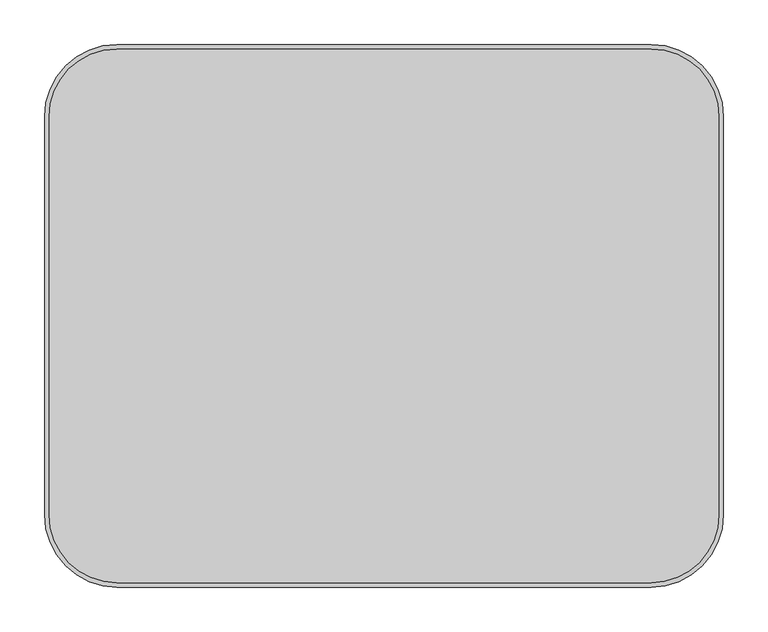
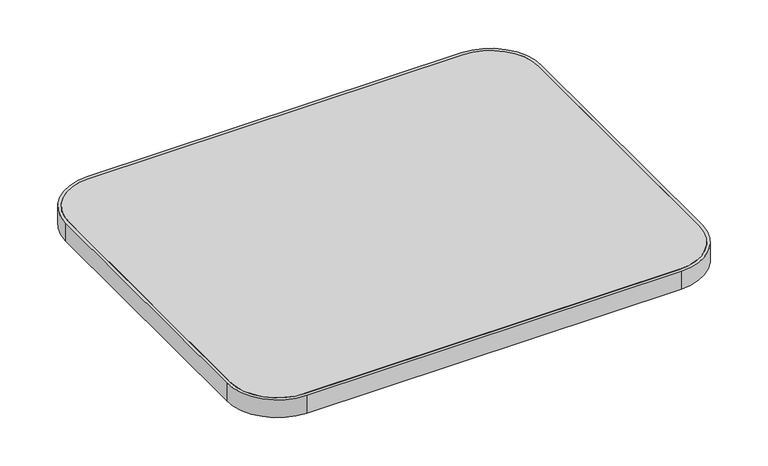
"""IFC4 building model written with IfcOpenShell, lengths in millimetres: furniture geometry, Steelcase - Answer Solution - Universal Table - Straight - 3mm Edge : 24D x 30W."""

from ifc_helpers import new_model, si_unit, point, frame, frame_2d, origin, place, context, project, spatial, polyline, circle_curve, trimmed, segment, composite_curve, outline, extrude, source, transform, mapped, element, save


def furniture_1676966e(model_context):
    return source(origin(), model_context, "Body", "SweptSolid", [
        extrude(outline(composite_curve([segment(polyline([(5.08, -528.32), (5.08, -81.28)]), True, "CONTINUOUS"), segment(trimmed(circle_curve(frame_2d((81.28, -81.28)), 76.2), [point((5.08, -81.28))], [point((81.28, -5.08))], False, "CARTESIAN"), True, "CONTINUOUS"), segment(polyline([(81.28, -5.08), (680.72, -5.08)]), True, "CONTINUOUS"), segment(trimmed(circle_curve(frame_2d((680.72, -81.28)), 76.2), [point((680.72, -5.08))], [point((756.92, -81.28))], False, "CARTESIAN"), True, "CONTINUOUS"), segment(polyline([(756.92, -81.28), (756.92, -528.32)]), True, "CONTINUOUS"), segment(trimmed(circle_curve(frame_2d((680.72, -528.32)), 76.2), [point((756.92, -528.32))], [point((680.72, -604.52))], False, "CARTESIAN"), True, "CONTINUOUS"), segment(polyline([(680.72, -604.52), (81.28, -604.52)]), True, "CONTINUOUS"), segment(trimmed(circle_curve(frame_2d((81.28, -528.32)), 76.2), [point((81.28, -604.52))], [point((5.08, -528.32))], False, "CARTESIAN"), True, "CONTINUOUS")], self_intersect=False)), frame((0.0, 0.0, 668.274), z_axis=(0.0, 0.0, 1.0), x_axis=(1.0, 0.0, 0.0)), (0.0, 0.0, 1.0), 30.0990349),
        extrude(outline(composite_curve([segment(polyline([(81.28, 0.0), (680.72, 0.0)]), True, "CONTINUOUS"), segment(trimmed(circle_curve(frame_2d((680.72, -81.28)), 81.28), [point((680.72, 0.0))], [point((762.0, -81.28))], False, "CARTESIAN"), True, "CONTINUOUS"), segment(polyline([(762.0, -81.28), (762.0, -528.32)]), True, "CONTINUOUS"), segment(trimmed(circle_curve(frame_2d((680.72, -528.32)), 81.28), [point((762.0, -528.32))], [point((680.72, -609.6))], False, "CARTESIAN"), True, "CONTINUOUS"), segment(polyline([(680.72, -609.6), (81.28, -609.6)]), True, "CONTINUOUS"), segment(trimmed(circle_curve(frame_2d((81.28, -528.32)), 81.28), [point((81.28, -609.6))], [point((0.0, -528.32))], False, "CARTESIAN"), True, "CONTINUOUS"), segment(polyline([(0.0, -528.32), (0.0, -81.28)]), True, "CONTINUOUS"), segment(trimmed(circle_curve(frame_2d((81.28, -81.28)), 81.28), [point((0.0, -81.28))], [point((81.28, 0.0))], False, "CARTESIAN"), True, "CONTINUOUS")], self_intersect=False), holes=[composite_curve([segment(trimmed(circle_curve(frame_2d((81.28, -81.28)), 76.2), [point((81.28, -5.08))], [point((5.08, -81.28))], True, "CARTESIAN"), True, "CONTINUOUS"), segment(polyline([(5.08, -81.28), (5.08, -528.32)]), True, "CONTINUOUS"), segment(trimmed(circle_curve(frame_2d((81.28, -528.32)), 76.2), [point((5.08, -528.32))], [point((81.28, -604.52))], True, "CARTESIAN"), True, "CONTINUOUS"), segment(polyline([(81.28, -604.52), (680.72, -604.52)]), True, "CONTINUOUS"), segment(trimmed(circle_curve(frame_2d((680.72, -528.32)), 76.2), [point((680.72, -604.52))], [point((756.92, -528.32))], True, "CARTESIAN"), True, "CONTINUOUS"), segment(polyline([(756.92, -528.32), (756.92, -81.28)]), True, "CONTINUOUS"), segment(trimmed(circle_curve(frame_2d((680.72, -81.28)), 76.2), [point((756.92, -81.28))], [point((680.72, -5.08))], True, "CARTESIAN"), True, "CONTINUOUS"), segment(polyline([(680.72, -5.08), (81.28, -5.08)]), True, "CONTINUOUS")], self_intersect=False)]), frame((0.0, 0.0, 668.274), z_axis=(0.0, 0.0, 1.0), x_axis=(1.0, 0.0, 0.0)), (0.0, 0.0, 1.0), 30.0990349),
    ])


if __name__ == "__main__":
    model = new_model("IFC4")
    model_context = context("Model", 3, world=origin())
    ifc_project = project(units=[si_unit("LENGTHUNIT", "METRE", prefix="MILLI")], contexts=[model_context])
    site = spatial("IfcSite", under=ifc_project)
    building = spatial("IfcBuilding", under=site)
    placement = place(None, origin())
    furniture_shape = furniture_1676966e(model_context)
    element("IfcFurniture", 1, ObjectType="Steelcase - Answer Solution - Universal Table - Straight - 3mm Edge : 24D x 30W", at=placement, inside=building, context=model_context, shape_type="MappedRepresentation", body=[
        mapped(furniture_shape, transform((0.0, 0.0, 0.0), x_axis=(1.0, 0.0, 0.0), y_axis=(0.0, 1.0, 0.0), z_axis=(0.0, 0.0, 1.0))),
    ])
    save(model, "model.ifc")
